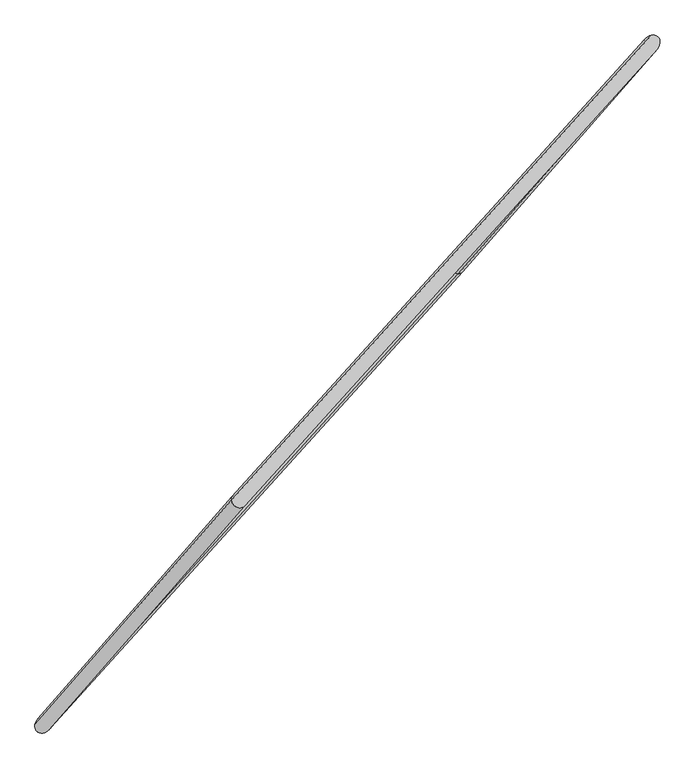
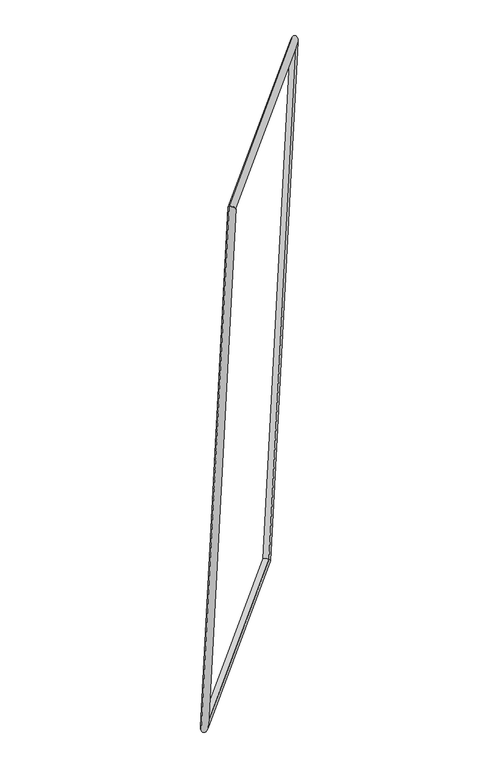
"""IFC4 building model written with IfcOpenShell, lengths in millimetres: proxy geometry, Família5 : Família5."""

from ifc_helpers import new_model, si_unit, frame, origin, place, context, project, spatial, ellipse_curve, source, transform, mapped, element, save
from ifc_brep_helpers import cylinder_surface, advanced_brep


def generic_models_08b8eeda(model_context):
    return source(origin(), model_context, "Body", "AdvancedBrep", [
        advanced_brep(
        [(-1396.9787294, -1447.8843102, 26.9586023), (-1487.6266596, -1460.0716562, -26.9586023), (634.1961241, 889.0892828, -26.9586023), (650.4092649, 818.8666835, 26.9586023), (1625.4792122, 2023.68632, 5633.5115369), (1622.8992952, 1931.9536717, 5580.1157611), (-496.3435715, -325.4746191, 5633.5115369), (-424.4886991, -334.7973219, 5580.1157611)],
        [
            (0, 1, ellipse_curve(frame((-1442.3026945, -1453.9779832, 0.0), z_axis=(0.4110811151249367, 0.44992843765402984, -0.7928283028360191), x_axis=(-0.5294399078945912, -0.5901604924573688, -0.6094292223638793)), 65.6345519, 40.0)),
            (1, 2),
            (2, 3, ellipse_curve(frame((642.3026945, 853.9779832, 0.0), z_axis=(-0.5294399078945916, -0.5901604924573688, -0.6094292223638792), x_axis=(-0.4110811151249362, -0.44992843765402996, 0.7928283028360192)), 50.4517986, 40.0)),
            (3, 0),
            (1, 0, ellipse_curve(frame((-1442.3026945, -1453.9779832, 0.0), z_axis=(0.4110811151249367, 0.44992843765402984, -0.7928283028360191), x_axis=(-0.5294399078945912, -0.5901604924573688, -0.6094292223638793)), 65.6345519, 40.0)),
            (3, 2, ellipse_curve(frame((642.3026945, 853.9779832, 0.0), z_axis=(-0.5294399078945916, -0.5901604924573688, -0.6094292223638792), x_axis=(-0.4110811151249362, -0.44992843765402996, 0.7928283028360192)), 50.4517986, 40.0)),
            (2, 4),
            (4, 5, ellipse_curve(frame((1624.1892537, 1977.8199959, 5606.813649), z_axis=(0.4110811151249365, 0.4499284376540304, -0.7928283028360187), x_axis=(-0.529439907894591, -0.5901604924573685, -0.6094292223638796)), 65.6345519, 40.0)),
            (5, 3),
            (5, 4, ellipse_curve(frame((1624.1892537, 1977.8199959, 5606.813649), z_axis=(0.4110811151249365, 0.4499284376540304, -0.7928283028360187), x_axis=(-0.529439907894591, -0.5901604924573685, -0.6094292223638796)), 65.6345519, 40.0)),
            (4, 6),
            (6, 7, ellipse_curve(frame((-460.4161353, -330.1359705, 5606.813649), z_axis=(0.529439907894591, 0.5901604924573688, 0.6094292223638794), x_axis=(0.41108111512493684, 0.4499284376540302, -0.7928283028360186)), 50.4517986, 40.0)),
            (7, 5),
            (7, 6, ellipse_curve(frame((-460.4161353, -330.1359705, 5606.813649), z_axis=(0.529439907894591, 0.5901604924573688, 0.6094292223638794), x_axis=(0.41108111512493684, 0.4499284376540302, -0.7928283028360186)), 50.4517986, 40.0)),
            (6, 1),
            (0, 7),
        ],
        [
            cylinder_surface(frame((-1442.3026945, -1453.9779832, 0.0), z_axis=(-0.6702862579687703, -0.7421026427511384, 0.0), x_axis=(-0.500151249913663, 0.45174951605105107, 0.7387632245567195)), 40.0),
            cylinder_surface(frame((642.3026945, 853.9779832, 0.0), z_axis=(-0.16923173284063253, -0.19369827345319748, -0.9663547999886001), x_axis=(-0.9787951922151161, -0.08178930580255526, 0.18780436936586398)), 40.0),
            cylinder_surface(frame((1624.1892537, 1977.8199959, 5606.813649), z_axis=(0.6702862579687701, 0.7421026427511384, 0.0), x_axis=(-0.4953143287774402, 0.44738068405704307, -0.7446571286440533)), 40.0),
            cylinder_surface(frame((-460.4161353, -330.1359705, 5606.813649), z_axis=(0.16923173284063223, 0.1936982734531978, 0.9663547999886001), x_axis=(-0.016670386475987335, 0.9809195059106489, -0.19369827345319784)), 40.0),
        ],
        [
            (0, [[1, 2, 3, 4]]),
            (0, [[5, -4, 6, -2]]),
            (1, [[-3, 7, 8, 9]]),
            (1, [[-6, -9, 10, -7]]),
            (2, [[-8, 11, 12, 13]]),
            (2, [[-10, -13, 14, -11]]),
            (3, [[-12, 15, -1, 16]]),
            (3, [[-14, -16, -5, -15]]),
        ],
    ),
    ])


if __name__ == "__main__":
    model = new_model("IFC4")
    model_context = context("Model", 3, world=origin())
    ifc_project = project(units=[si_unit("LENGTHUNIT", "METRE", prefix="MILLI")], contexts=[model_context])
    site = spatial("IfcSite", under=ifc_project)
    building = spatial("IfcBuilding", under=site)
    placement = place(None, origin())
    generic_models_shape = generic_models_08b8eeda(model_context)
    element("IfcBuildingElementProxy", 1, Name="Família5 : Família5", ObjectType="Família5 : Família5", at=placement, inside=building, context=model_context, shape_type="MappedRepresentation", body=[
        mapped(generic_models_shape, transform((0.0, 0.0, 0.0), x_axis=(1.0, 0.0, 0.0), y_axis=(0.0, 1.0, 0.0), z_axis=(0.0, 0.0, 1.0))),
    ])
    save(model, "model.ifc")
